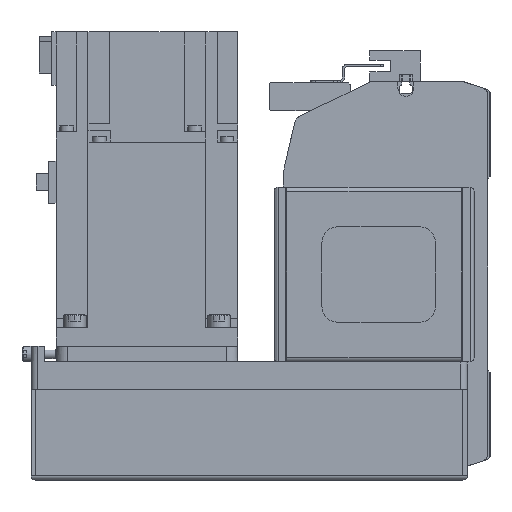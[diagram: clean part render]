
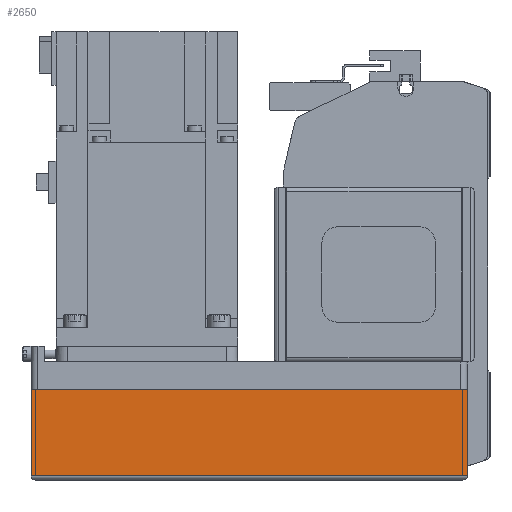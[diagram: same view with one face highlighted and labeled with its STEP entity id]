
A CAD part, left-side view. The second image highlights one B-rep face of the part: STEP entity #2650.
In plain terms, the highlighted planar face has unit normal (-1, 0, 0) as drawn and (0, -1, 0) by its records, which use the part's own axes.
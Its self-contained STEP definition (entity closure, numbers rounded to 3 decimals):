
#2650 = ADVANCED_FACE( '', ( #5632 ), #5633, .T. );
#5632 = FACE_OUTER_BOUND( '', #8878, .T. );
#5633 = PLANE( '', #8879 );
#8878 = EDGE_LOOP( '', ( #16395, #16396, #16397, #16398 ) );
#8879 = AXIS2_PLACEMENT_3D( '', #16399, #16400, #16401 );
#16395 = ORIENTED_EDGE( '', *, *, #19485, .F. );
#16396 = ORIENTED_EDGE( '', *, *, #19645, .F. );
#16397 = ORIENTED_EDGE( '', *, *, #21514, .T. );
#16398 = ORIENTED_EDGE( '', *, *, #20363, .T. );
#16399 = CARTESIAN_POINT( '', ( -192., -40., -12.1 ) );
#16400 = DIRECTION( '', ( 0., -1., 0. ) );
#16401 = DIRECTION( '', ( 0., 0., -1. ) );
#19485 = EDGE_CURVE( '', #23646, #23647, #23648, .T. );
#19645 = EDGE_CURVE( '', #23919, #23646, #23920, .T. );
#20363 = EDGE_CURVE( '', #25046, #23647, #25048, .T. );
#21514 = EDGE_CURVE( '', #23919, #25046, #26584, .T. );
#23646 = VERTEX_POINT( '', #29378 );
#23647 = VERTEX_POINT( '', #29379 );
#23648 = LINE( '', #29380, #29381 );
#23919 = VERTEX_POINT( '', #29806 );
#23920 = LINE( '', #29807, #29808 );
#25046 = VERTEX_POINT( '', #31535 );
#25048 = LINE( '', #31537, #31538 );
#26584 = LINE( '', #33896, #33897 );
#29378 = CARTESIAN_POINT( '', ( 0., -40., -12.1 ) );
#29379 = CARTESIAN_POINT( '', ( 0., -40., -50. ) );
#29380 = CARTESIAN_POINT( '', ( 0., -40., -12.1 ) );
#29381 = VECTOR( '', #35906, 1000. );
#29806 = CARTESIAN_POINT( '', ( -192., -40., -12.1 ) );
#29807 = CARTESIAN_POINT( '', ( -192., -40., -12.1 ) );
#29808 = VECTOR( '', #36100, 1000. );
#31535 = CARTESIAN_POINT( '', ( -192., -40., -50. ) );
#31537 = CARTESIAN_POINT( '', ( -192., -40., -50. ) );
#31538 = VECTOR( '', #36936, 1000. );
#33896 = CARTESIAN_POINT( '', ( -192., -40., -12.1 ) );
#33897 = VECTOR( '', #38206, 1000. );
#35906 = DIRECTION( '', ( 0., 0., -1. ) );
#36100 = DIRECTION( '', ( 1., 0., 0. ) );
#36936 = DIRECTION( '', ( 1., 0., 0. ) );
#38206 = DIRECTION( '', ( 0., 0., -1. ) );
